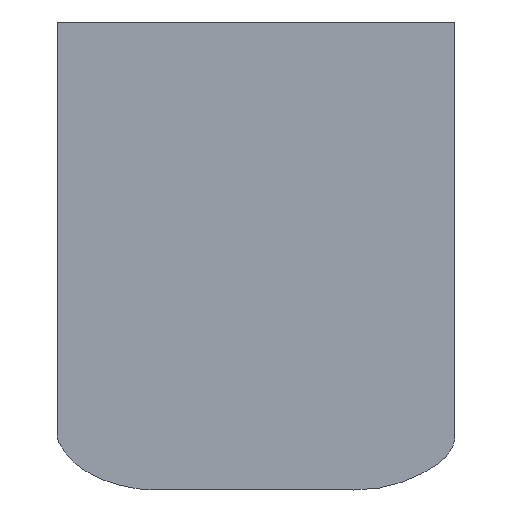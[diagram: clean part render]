
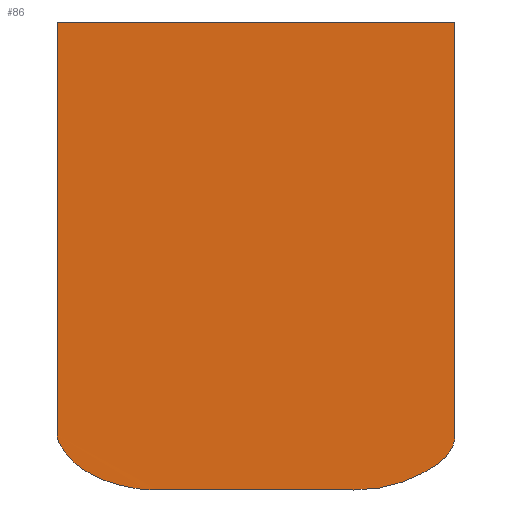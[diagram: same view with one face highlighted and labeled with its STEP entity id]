
A CAD part, top view. The second image highlights one B-rep face of the part: STEP entity #86.
In plain terms, the highlighted planar face has unit normal (0, 0, 1).
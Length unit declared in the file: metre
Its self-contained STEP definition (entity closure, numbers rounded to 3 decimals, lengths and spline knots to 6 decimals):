
#14=PLANE('',#94);
#15=LINE('',#147,#18);
#16=LINE('',#164,#19);
#17=LINE('',#210,#20);
#18=VECTOR('',#97,1.);
#19=VECTOR('',#100,1.);
#20=VECTOR('',#103,1.);
#37=ORIENTED_EDGE('',*,*,#43,.T.);
#38=ORIENTED_EDGE('',*,*,#53,.T.);
#39=ORIENTED_EDGE('',*,*,#51,.T.);
#40=ORIENTED_EDGE('',*,*,#50,.T.);
#41=ORIENTED_EDGE('',*,*,#48,.T.);
#42=ORIENTED_EDGE('',*,*,#44,.T.);
#43=EDGE_CURVE('',#54,#55,#62,.T.);
#44=EDGE_CURVE('',#56,#54,#15,.T.);
#48=EDGE_CURVE('',#59,#56,#16,.F.);
#50=EDGE_CURVE('',#60,#59,#67,.T.);
#51=EDGE_CURVE('',#61,#60,#68,.T.);
#53=EDGE_CURVE('',#55,#61,#17,.T.);
#54=VERTEX_POINT('',#145);
#55=VERTEX_POINT('',#146);
#56=VERTEX_POINT('',#148);
#59=VERTEX_POINT('',#165);
#60=VERTEX_POINT('',#198);
#61=VERTEX_POINT('',#204);
#62=B_SPLINE_CURVE_WITH_KNOTS('',3,(#139,#140,#141,#142,#143,#144),
 .UNSPECIFIED.,.F.,.F.,(4,1,1,4),(0.000163,0.00996,
0.019757,0.039351),.UNSPECIFIED.);
#67=B_SPLINE_CURVE_WITH_KNOTS('',3,(#194,#195,#196,#197),.UNSPECIFIED.,
 .F.,.F.,(4,4),(0.,0.176431),.UNSPECIFIED.);
#68=B_SPLINE_CURVE_WITH_KNOTS('',3,(#199,#200,#201,#202,#203),
 .UNSPECIFIED.,.F.,.F.,(4,1,4),(0.000233,0.035015,
0.069796),.UNSPECIFIED.);
#74=EDGE_LOOP('',(#37,#38,#39,#40,#41,#42));
#79=FACE_BOUND('',#74,.T.);
#86=ADVANCED_FACE('',(#79),#14,.F.);
#94=AXIS2_PLACEMENT_3D('',#211,#104,#105);
#97=DIRECTION('',(0.,-1.,0.));
#100=DIRECTION('',(1.,0.,0.));
#103=DIRECTION('',(1.,0.,0.));
#104=DIRECTION('',(0.,0.,-1.));
#105=DIRECTION('',(1.,0.,0.));
#139=CARTESIAN_POINT('',(0.029348,-0.005014,-0.03));
#140=CARTESIAN_POINT('',(0.029348,-0.00504,-0.03));
#141=CARTESIAN_POINT('',(0.029395,-0.005115,-0.03));
#142=CARTESIAN_POINT('',(0.02951,-0.005203,-0.03));
#143=CARTESIAN_POINT('',(0.029665,-0.00525,-0.03));
#144=CARTESIAN_POINT('',(0.02978,-0.00525,-0.03));
#145=CARTESIAN_POINT('',(0.029348,-0.005014,-0.03));
#146=CARTESIAN_POINT('',(0.02978,-0.005249,-0.03));
#147=CARTESIAN_POINT('',(0.029348,-0.002625,-0.03));
#148=CARTESIAN_POINT('',(0.029348,-0.00325,-0.03));
#164=CARTESIAN_POINT('',(0.027873,-0.00325,-0.03));
#165=CARTESIAN_POINT('',(0.031048,-0.00325,-0.03));
#194=CARTESIAN_POINT('',(0.031048,-0.005014,-0.03));
#195=CARTESIAN_POINT('',(0.031048,-0.004426,-0.03));
#196=CARTESIAN_POINT('',(0.031048,-0.003838,-0.03));
#197=CARTESIAN_POINT('',(0.031048,-0.00325,-0.03));
#198=CARTESIAN_POINT('',(0.031048,-0.005014,-0.03));
#199=CARTESIAN_POINT('',(0.030616,-0.00525,-0.03));
#200=CARTESIAN_POINT('',(0.030732,-0.00525,-0.03));
#201=CARTESIAN_POINT('',(0.030925,-0.00519,-0.03));
#202=CARTESIAN_POINT('',(0.031047,-0.005086,-0.03));
#203=CARTESIAN_POINT('',(0.031048,-0.005014,-0.03));
#204=CARTESIAN_POINT('',(0.030616,-0.005249,-0.03));
#210=CARTESIAN_POINT('',(0.027873,-0.00525,-0.03));
#211=CARTESIAN_POINT('',(0.027873,-0.002625,-0.03));
